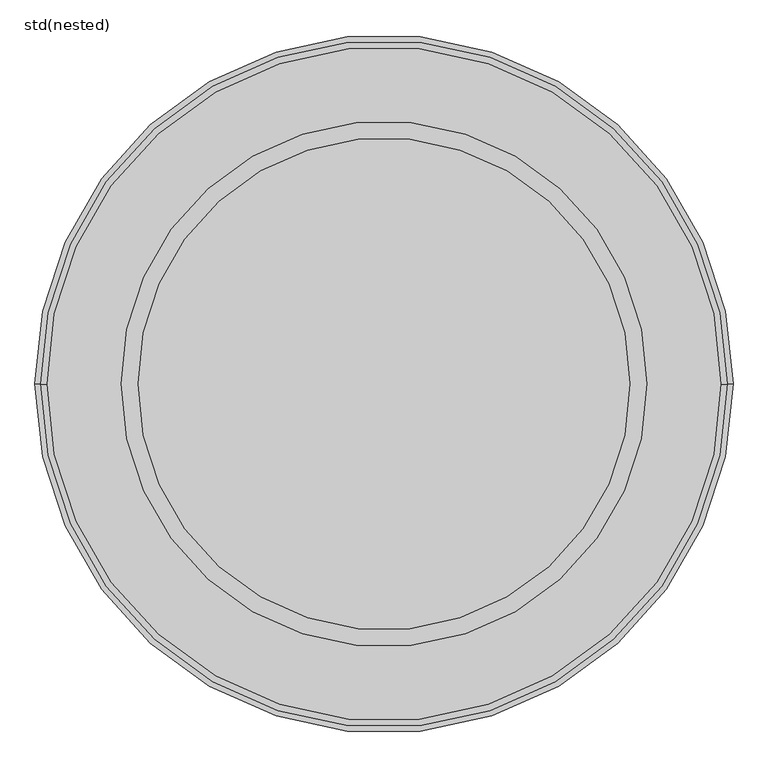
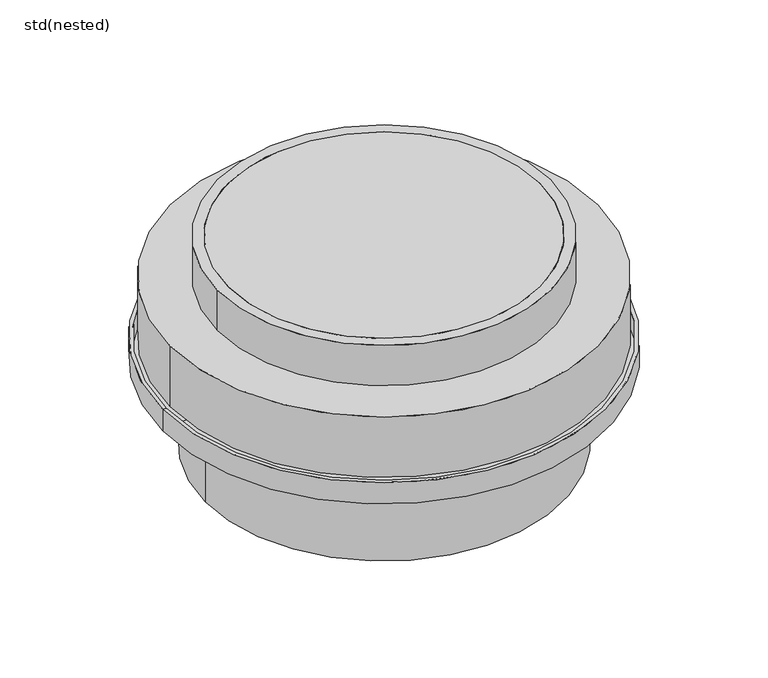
"""IFC4 building model written with IfcOpenShell, lengths in millimetres: unitary equipment geometry, ZZZ_do not use_ME_WPB_top sections_plastic_ACO : std(nested)."""

from ifc_helpers import new_model, si_unit, point, frame, origin, origin_2d, place, context, project, spatial, polyline, circle_curve, trimmed, segment, composite_curve, outline, extrude, source, transform, mapped, element, save
from ifc_brep_helpers import plane_surface, cylinder_surface, revolved_surface, advanced_brep


def std_nested_dfdc8ccc(model_context):
    return source(origin(), model_context, "Body", "SolidModel", [
        advanced_brep(
        [(-510.0, 0.0, -250.0), (510.0, 0.0, -250.0), (518.0, 0.0, -250.0), (-518.0, 0.0, -250.0), (-510.0, 0.0, -295.0), (510.0, 0.0, -295.0), (-410.0, 0.0, -295.0), (410.0, 0.0, -295.0), (-410.0, 0.0, -514.0), (410.0, 0.0, -514.0), (-418.0, 0.0, -514.0), (418.0, 0.0, -514.0), (-418.0, 0.0, -303.0), (418.0, 0.0, -303.0), (-518.0, 0.0, -303.0), (518.0, 0.0, -303.0)],
        [
            (0, 1, circle_curve(frame((0.0, 0.0, -250.0), z_axis=(0.0, 0.0, -1.0), x_axis=(1.0, 0.0, 0.0)), 510.0)),
            (1, 2),
            (2, 3, circle_curve(frame((0.0, 0.0, -250.0), z_axis=(0.0, 0.0, 1.0), x_axis=(1.0, 0.0, 0.0)), 518.0)),
            (3, 0),
            (1, 0, circle_curve(frame((0.0, 0.0, -250.0), z_axis=(0.0, 0.0, -1.0), x_axis=(1.0, 0.0, 0.0)), 510.0)),
            (3, 2, circle_curve(frame((0.0, 0.0, -250.0), z_axis=(0.0, 0.0, 1.0), x_axis=(1.0, 0.0, 0.0)), 518.0)),
            (4, 5, circle_curve(frame((0.0, 0.0, -295.0), z_axis=(0.0, 0.0, -1.0), x_axis=(1.0, 0.0, 0.0)), 510.0)),
            (5, 1),
            (0, 4),
            (5, 4, circle_curve(frame((0.0, 0.0, -295.0), z_axis=(0.0, 0.0, -1.0), x_axis=(1.0, 0.0, 0.0)), 510.0)),
            (6, 7, circle_curve(frame((0.0, 0.0, -295.0), z_axis=(0.0, 0.0, -1.0), x_axis=(1.0, 0.0, 0.0)), 410.0)),
            (7, 5),
            (4, 6),
            (7, 6, circle_curve(frame((0.0, 0.0, -295.0), z_axis=(0.0, 0.0, -1.0), x_axis=(1.0, 0.0, 0.0)), 410.0)),
            (8, 9, circle_curve(frame((0.0, 0.0, -514.0), z_axis=(0.0, 0.0, -1.0), x_axis=(1.0, 0.0, 0.0)), 410.0)),
            (9, 7),
            (6, 8),
            (9, 8, circle_curve(frame((0.0, 0.0, -514.0), z_axis=(0.0, 0.0, -1.0), x_axis=(1.0, 0.0, 0.0)), 410.0)),
            (10, 11, circle_curve(frame((0.0, 0.0, -514.0), z_axis=(0.0, 0.0, -1.0), x_axis=(1.0, 0.0, 0.0)), 418.0)),
            (11, 9),
            (8, 10),
            (11, 10, circle_curve(frame((0.0, 0.0, -514.0), z_axis=(0.0, 0.0, -1.0), x_axis=(1.0, 0.0, 0.0)), 418.0)),
            (12, 13, circle_curve(frame((0.0, 0.0, -303.0), z_axis=(0.0, 0.0, -1.0), x_axis=(1.0, 0.0, 0.0)), 418.0)),
            (13, 11),
            (10, 12),
            (13, 12, circle_curve(frame((0.0, 0.0, -303.0), z_axis=(0.0, 0.0, -1.0), x_axis=(1.0, 0.0, 0.0)), 418.0)),
            (14, 15, circle_curve(frame((0.0, 0.0, -303.0), z_axis=(0.0, 0.0, -1.0), x_axis=(1.0, 0.0, 0.0)), 518.0)),
            (15, 13),
            (12, 14),
            (15, 14, circle_curve(frame((0.0, 0.0, -303.0), z_axis=(0.0, 0.0, -1.0), x_axis=(1.0, 0.0, 0.0)), 518.0)),
            (2, 15),
            (14, 3),
        ],
        [
            plane_surface(frame((0.0, 0.0, -250.0), z_axis=(0.0, 0.0, 1.0), x_axis=(1.0, 0.0, 0.0))),
            revolved_surface(polyline([(510.0, 0.0, -250.0), (510.0, 0.0, -295.0)]), (0.0, 0.0, 240.0), (0.0, 0.0, 1.0)),
            plane_surface(frame((0.0, 0.0, -295.0), z_axis=(0.0, 0.0, 1.0), x_axis=(1.0, 0.0, 0.0))),
            revolved_surface(polyline([(410.0, 0.0, -295.0), (410.0, 0.0, -514.0)]), (0.0, 0.0, 240.0), (0.0, 0.0, 1.0)),
            plane_surface(frame((0.0, 0.0, -514.0), z_axis=(0.0, 0.0, -1.0), x_axis=(1.0, 0.0, 0.0))),
            cylinder_surface(frame((0.0, 0.0, 240.0), z_axis=(0.0, 0.0, 1.0), x_axis=(1.0, 0.0, 0.0)), 418.0),
            plane_surface(frame((0.0, 0.0, -303.0), z_axis=(0.0, 0.0, -1.0), x_axis=(1.0, 0.0, 0.0))),
            cylinder_surface(frame((0.0, 0.0, 240.0), z_axis=(0.0, 0.0, 1.0), x_axis=(1.0, 0.0, 0.0)), 518.0),
        ],
        [
            (0, [[1, 2, 3, 4]]),
            (0, [[5, -4, 6, -2]]),
            (1, [[7, 8, -1, 9]]),
            (1, [[10, -9, -5, -8]]),
            (2, [[11, 12, -7, 13]]),
            (2, [[14, -13, -10, -12]]),
            (3, [[15, 16, -11, 17]]),
            (3, [[18, -17, -14, -16]]),
            (4, [[19, 20, -15, 21]]),
            (4, [[22, -21, -18, -20]]),
            (5, [[23, 24, -19, 25]]),
            (5, [[26, -25, -22, -24]]),
            (6, [[27, 28, -23, 29]]),
            (6, [[30, -29, -26, -28]]),
            (7, [[-3, 31, -27, 32]]),
            (7, [[-6, -32, -30, -31]]),
        ],
    ),
        extrude(outline(composite_curve([segment(trimmed(circle_curve(origin_2d(), 500.0), [point((-500.0, 0.0))], [point((500.0, 0.0))], False, "CARTESIAN"), True, "CONTINUOUS"), segment(trimmed(circle_curve(origin_2d(), 500.0), [point((500.0, 0.0))], [point((-500.0, 0.0))], False, "CARTESIAN"), True, "CONTINUOUS")], self_intersect=False)), frame((0.0, 0.0, -250.0), z_axis=(0.0, 0.0, 1.0), x_axis=(1.0, 0.0, 0.0)), (0.0, 0.0, 1.0), 150.0),
        extrude(outline(composite_curve([segment(trimmed(circle_curve(origin_2d(), 365.0), [point((365.0, 0.0))], [point((-365.0, 0.0))], False, "CARTESIAN"), True, "CONTINUOUS"), segment(trimmed(circle_curve(origin_2d(), 365.0), [point((-365.0, 0.0))], [point((365.0, 0.0))], False, "CARTESIAN"), True, "CONTINUOUS")], self_intersect=False)), frame((0.0, 0.0, -100.0), z_axis=(0.0, 0.0, 1.0), x_axis=(1.0, 0.0, 0.0)), (0.0, 0.0, 1.0), 100.0),
        extrude(outline(composite_curve([segment(trimmed(circle_curve(origin_2d(), 390.0), [point((-390.0, 0.0))], [point((390.0, 0.0))], False, "CARTESIAN"), True, "CONTINUOUS"), segment(trimmed(circle_curve(origin_2d(), 390.0), [point((390.0, 0.0))], [point((-390.0, 0.0))], False, "CARTESIAN"), True, "CONTINUOUS")], self_intersect=False), holes=[composite_curve([segment(trimmed(circle_curve(origin_2d(), 365.0), [point((-365.0, 0.0))], [point((365.0, 0.0))], True, "CARTESIAN"), True, "CONTINUOUS"), segment(trimmed(circle_curve(origin_2d(), 365.0), [point((365.0, 0.0))], [point((-365.0, 0.0))], True, "CARTESIAN"), True, "CONTINUOUS")], self_intersect=False)]), frame((0.0, 0.0, -100.0), z_axis=(0.0, 0.0, 1.0), x_axis=(1.0, 0.0, 0.0)), (0.0, 0.0, 1.0), 100.0),
    ])


if __name__ == "__main__":
    model = new_model("IFC4")
    model_context = context("Model", 3, world=origin())
    ifc_project = project(units=[si_unit("LENGTHUNIT", "METRE", prefix="MILLI")], contexts=[model_context])
    site = spatial("IfcSite", under=ifc_project)
    building = spatial("IfcBuilding", under=site)
    placement = place(None, origin())
    std_nested_shape = std_nested_dfdc8ccc(model_context)
    element("IfcUnitaryEquipment", 1, ObjectType="ZZZ_do not use_ME_WPB_top sections_plastic_ACO : std(nested)", at=placement, inside=building, context=model_context, shape_type="MappedRepresentation", body=[
        mapped(std_nested_shape, transform((0.0, 0.0, 0.0), x_axis=(1.0, 0.0, 0.0), y_axis=(0.0, 1.0, 0.0), z_axis=(0.0, 0.0, 1.0))),
    ])
    save(model, "model.ifc")
